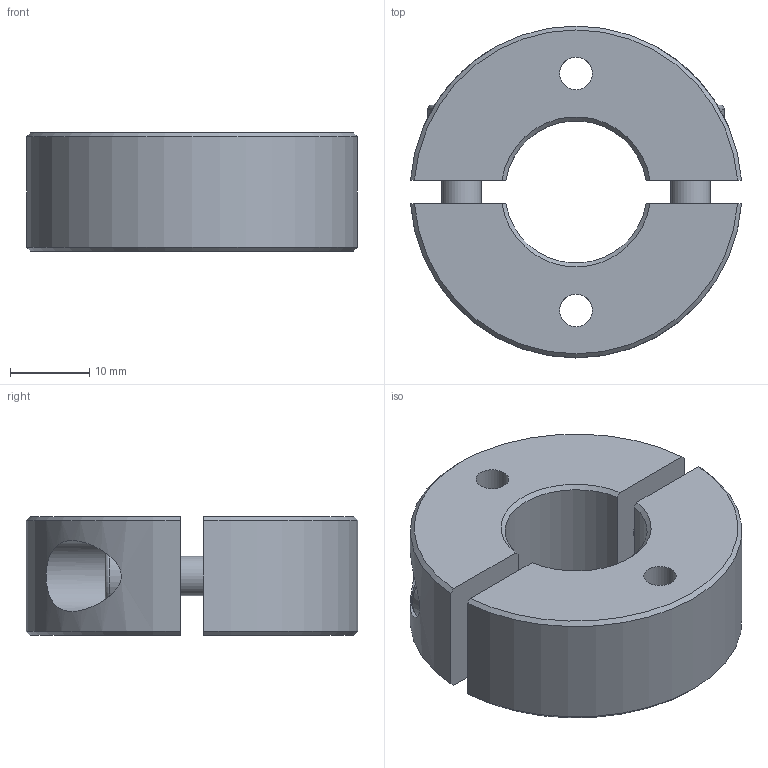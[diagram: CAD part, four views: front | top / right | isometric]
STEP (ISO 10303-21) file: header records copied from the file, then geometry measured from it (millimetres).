
FILE_DESCRIPTION( ( 'STEP AP203' ), '1' );
FILE_NAME( 'C:/Temp/Ganter_Step_05_03_2020/data/3_2/gn7072_2/Split Stainless Steel-Set collar GN 7072.2-42-B18-NI-C.stp', '2020-03-13T05:41:06', ( 'License CC BY-ND 4.0' ), ( 'CADENAS' ), ' ', 'PARTsolutions', ' ' );
FILE_SCHEMA( ( 'CONFIG_CONTROL_DESIGN' ) );
Length unit declared in the file: millimetre
Products named in the file (1): _Split Stainless Steel-Set collar GN 7072.2-42-B18-NI-C
Bounding box: 41.89 x 42 x 15 mm (x, y, z)
Volume: 14881.4 mm3; surface area: 6789.9 mm2
Topology: 1 solids, 1 shells, 52 faces, 124 edges, 84 vertices
Faces by surface type: plane 28, cylinder 14, cone 8, torus 2
Full cylindrical faces by diameter (mm): 4.134 x2, 5 x2, 5.4 x2, 8.5 x2, 9 x2
Entity records: 1624 total; most frequent: CARTESIAN_POINT 439, DIRECTION 230, ORIENTED_EDGE 212, EDGE_CURVE 106, AXIS2_PLACEMENT_3D 89, EDGE_LOOP 80, VERTEX_POINT 78, FACE_OUTER_BOUND 64
